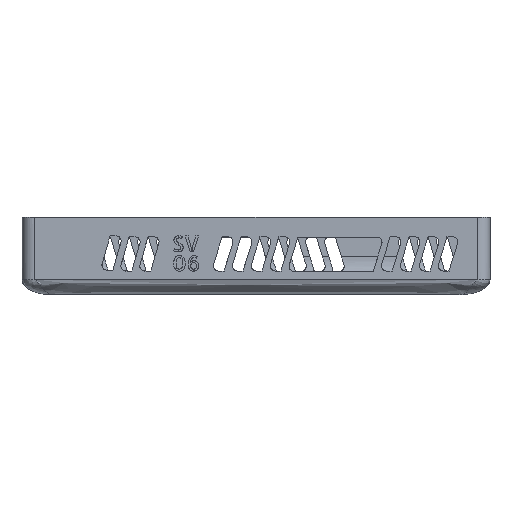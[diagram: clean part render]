
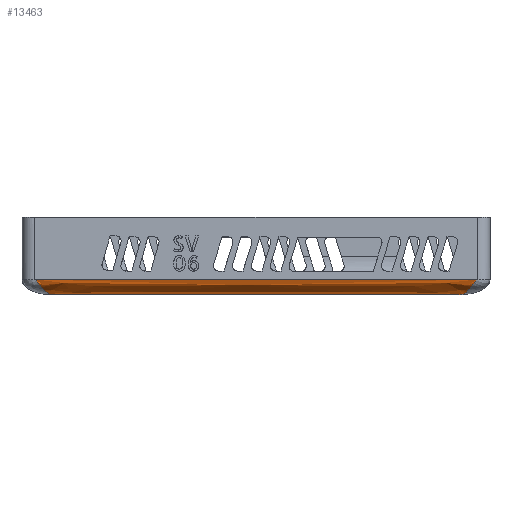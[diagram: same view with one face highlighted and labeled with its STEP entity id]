
A CAD part, left-side view. The second image highlights one B-rep face of the part: STEP entity #13463.
In plain terms, the highlighted free-form (B-spline) face has degree [2, 3] with [3, 12] control points.
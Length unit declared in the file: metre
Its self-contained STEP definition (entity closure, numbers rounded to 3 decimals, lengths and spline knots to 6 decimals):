
#278=(
BOUNDED_SURFACE()
B_SPLINE_SURFACE(2,3,((#20905,#20906,#20907,#20908,#20909,#20910,#20911,
#20912,#20913,#20914,#20915,#20916),(#20917,#20918,#20919,#20920,#20921,
#20922,#20923,#20924,#20925,#20926,#20927,#20928),(#20929,#20930,#20931,
#20932,#20933,#20934,#20935,#20936,#20937,#20938,#20939,#20940)),
 .SURF_OF_LINEAR_EXTRUSION.,.F.,.F.,.F.)
B_SPLINE_SURFACE_WITH_KNOTS((3,3),(4,2,2,2,2,4),(0.,1.),(-0.042998,
-0.04263,-0.03913,0.04147,0.04497,
0.045338),.UNSPECIFIED.)
GEOMETRIC_REPRESENTATION_ITEM()
RATIONAL_B_SPLINE_SURFACE(((1.,1.,1.,1.,1.,1.,1.,1.,1.,1.,1.,1.),(0.707,
0.707,0.707,0.707,0.707,
0.707,0.707,0.707,0.707,
0.707,0.707,0.707),(1.,1.,1.,1.,1.,
1.,1.,1.,1.,1.,1.,1.)))
REPRESENTATION_ITEM('')
SURFACE()
);
#4540=ORIENTED_EDGE('',*,*,#8695,.T.);
#4541=ORIENTED_EDGE('',*,*,#7902,.F.);
#4542=ORIENTED_EDGE('',*,*,#8696,.F.);
#4543=ORIENTED_EDGE('',*,*,#8587,.F.);
#7902=EDGE_CURVE('',#9999,#9995,#11135,.T.);
#8587=EDGE_CURVE('',#10651,#10652,#11361,.T.);
#8695=EDGE_CURVE('',#10651,#9995,#11375,.F.);
#8696=EDGE_CURVE('',#10652,#9999,#11376,.T.);
#9995=VERTEX_POINT('',#18776);
#9999=VERTEX_POINT('',#18787);
#10651=VERTEX_POINT('',#20590);
#10652=VERTEX_POINT('',#20595);
#11135=B_SPLINE_CURVE_WITH_KNOTS('',3,(#18788,#18789,#18790,#18791),
 .UNSPECIFIED.,.F.,.F.,(4,4),(0.,1.),.UNSPECIFIED.);
#11361=B_SPLINE_CURVE_WITH_KNOTS('',3,(#20591,#20592,#20593,#20594),
 .UNSPECIFIED.,.F.,.F.,(4,4),(0.,1.),.UNSPECIFIED.);
#11375=B_SPLINE_CURVE_WITH_KNOTS('',3,(#20941,#20942,#20943,#20944,#20945,
#20946,#20947),.UNSPECIFIED.,.F.,.F.,(4,1,1,1,4),(0.,0.25,0.5,0.75,1.),
 .UNSPECIFIED.);
#11376=B_SPLINE_CURVE_WITH_KNOTS('',3,(#20948,#20949,#20950,#20951,#20952,
#20953,#20954),.UNSPECIFIED.,.F.,.F.,(4,1,1,1,4),(0.,0.25,0.5,0.75,1.),
 .UNSPECIFIED.);
#11766=EDGE_LOOP('',(#4540,#4541,#4542,#4543));
#12597=FACE_BOUND('',#11766,.T.);
#13463=ADVANCED_FACE('',(#12597),#278,.T.);
#18776=CARTESIAN_POINT('',(-0.051367,-0.046218,0.023));
#18787=CARTESIAN_POINT('',(-0.051367,0.04107,0.023));
#18788=CARTESIAN_POINT('',(-0.051367,0.04107,0.023));
#18789=CARTESIAN_POINT('',(-0.051367,0.011974,0.023));
#18790=CARTESIAN_POINT('',(-0.051367,-0.017122,0.023));
#18791=CARTESIAN_POINT('',(-0.051367,-0.046218,0.023));
#20590=CARTESIAN_POINT('',(-0.045367,-0.042874,0.02));
#20591=CARTESIAN_POINT('',(-0.045367,-0.042874,0.02));
#20592=CARTESIAN_POINT('',(-0.045367,-0.016007,0.02));
#20593=CARTESIAN_POINT('',(-0.045367,0.010859,0.02));
#20594=CARTESIAN_POINT('',(-0.045367,0.037726,0.02));
#20595=CARTESIAN_POINT('',(-0.045367,0.037726,0.02));
#20905=CARTESIAN_POINT('',(-0.051367,0.041594,0.023));
#20906=CARTESIAN_POINT('',(-0.051367,0.041471,0.023));
#20907=CARTESIAN_POINT('',(-0.051367,0.041349,0.023));
#20908=CARTESIAN_POINT('',(-0.051367,0.040059,0.023));
#20909=CARTESIAN_POINT('',(-0.051367,0.038893,0.023));
#20910=CARTESIAN_POINT('',(-0.051367,0.010859,0.023));
#20911=CARTESIAN_POINT('',(-0.051367,-0.016007,0.023));
#20912=CARTESIAN_POINT('',(-0.051367,-0.044041,0.023));
#20913=CARTESIAN_POINT('',(-0.051367,-0.045207,0.023));
#20914=CARTESIAN_POINT('',(-0.051367,-0.046497,0.023));
#20915=CARTESIAN_POINT('',(-0.051367,-0.046619,0.023));
#20916=CARTESIAN_POINT('',(-0.051367,-0.046742,0.023));
#20917=CARTESIAN_POINT('',(-0.051367,0.041594,0.02));
#20918=CARTESIAN_POINT('',(-0.051367,0.041471,0.02));
#20919=CARTESIAN_POINT('',(-0.051367,0.041349,0.02));
#20920=CARTESIAN_POINT('',(-0.051367,0.040059,0.02));
#20921=CARTESIAN_POINT('',(-0.051367,0.038893,0.02));
#20922=CARTESIAN_POINT('',(-0.051367,0.010859,0.02));
#20923=CARTESIAN_POINT('',(-0.051367,-0.016007,0.02));
#20924=CARTESIAN_POINT('',(-0.051367,-0.044041,0.02));
#20925=CARTESIAN_POINT('',(-0.051367,-0.045207,0.02));
#20926=CARTESIAN_POINT('',(-0.051367,-0.046497,0.02));
#20927=CARTESIAN_POINT('',(-0.051367,-0.046619,0.02));
#20928=CARTESIAN_POINT('',(-0.051367,-0.046742,0.02));
#20929=CARTESIAN_POINT('',(-0.045367,0.041594,0.02));
#20930=CARTESIAN_POINT('',(-0.045367,0.041471,0.02));
#20931=CARTESIAN_POINT('',(-0.045367,0.041349,0.02));
#20932=CARTESIAN_POINT('',(-0.045367,0.040059,0.02));
#20933=CARTESIAN_POINT('',(-0.045367,0.038893,0.02));
#20934=CARTESIAN_POINT('',(-0.045367,0.010859,0.02));
#20935=CARTESIAN_POINT('',(-0.045367,-0.016007,0.02));
#20936=CARTESIAN_POINT('',(-0.045367,-0.044041,0.02));
#20937=CARTESIAN_POINT('',(-0.045367,-0.045207,0.02));
#20938=CARTESIAN_POINT('',(-0.045367,-0.046497,0.02));
#20939=CARTESIAN_POINT('',(-0.045367,-0.046619,0.02));
#20940=CARTESIAN_POINT('',(-0.045367,-0.046742,0.02));
#20941=CARTESIAN_POINT('',(-0.051367,-0.046218,0.023));
#20942=CARTESIAN_POINT('',(-0.051367,-0.04594,0.022646));
#20943=CARTESIAN_POINT('',(-0.05111,-0.045382,0.021883));
#20944=CARTESIAN_POINT('',(-0.049736,-0.044546,0.020815));
#20945=CARTESIAN_POINT('',(-0.047601,-0.04371,0.020128));
#20946=CARTESIAN_POINT('',(-0.046074,-0.043153,0.02));
#20947=CARTESIAN_POINT('',(-0.045367,-0.042874,0.02));
#20948=CARTESIAN_POINT('',(-0.045367,0.037726,0.02));
#20949=CARTESIAN_POINT('',(-0.046074,0.038005,0.02));
#20950=CARTESIAN_POINT('',(-0.047601,0.038562,0.020128));
#20951=CARTESIAN_POINT('',(-0.049736,0.039398,0.020815));
#20952=CARTESIAN_POINT('',(-0.05111,0.040234,0.021883));
#20953=CARTESIAN_POINT('',(-0.051367,0.040792,0.022646));
#20954=CARTESIAN_POINT('',(-0.051367,0.04107,0.023));
